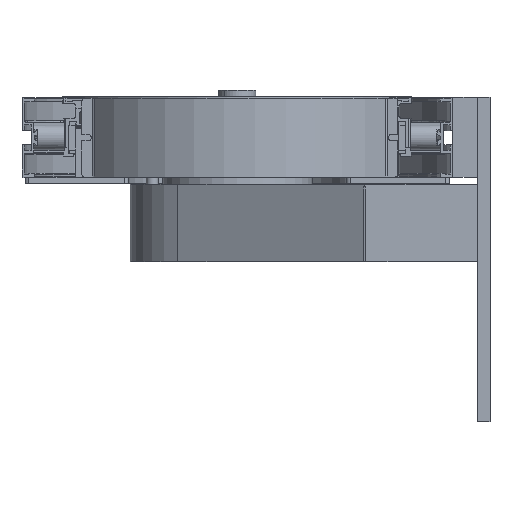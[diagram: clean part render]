
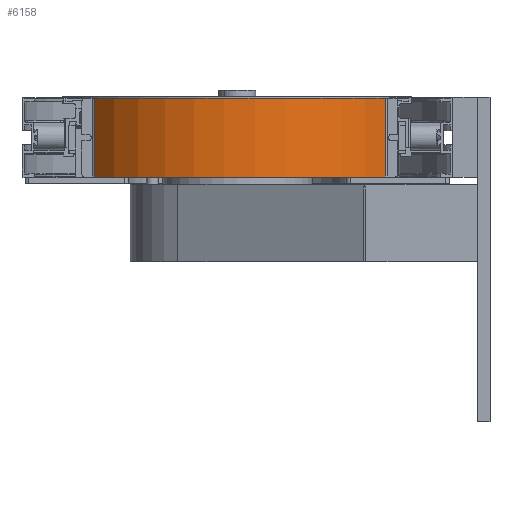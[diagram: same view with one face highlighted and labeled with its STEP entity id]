
A CAD part, front view. The second image highlights one B-rep face of the part: STEP entity #6158.
In plain terms, the highlighted cylindrical face has radius 143 mm (diameter 286 mm), a partial arc.
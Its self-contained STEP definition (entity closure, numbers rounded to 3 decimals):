
#365 = CYLINDRICAL_SURFACE ( 'NONE', #8173, 143. ) ;
#534 = CARTESIAN_POINT ( 'NONE',  ( 2164.979, 345.156, 0. ) ) ;
#3013 = AXIS2_PLACEMENT_3D ( 'NONE', #8589, #34651, #37711 ) ;
#4988 = VERTEX_POINT ( 'NONE', #19439 ) ;
#6111 = VECTOR ( 'NONE', #31952, 1000. ) ;
#6158 = ADVANCED_FACE ( 'NONE', ( #28730 ), #365, .T. ) ;
#6191 = AXIS2_PLACEMENT_3D ( 'NONE', #14053, #27260, #23944 ) ;
#7233 = CIRCLE ( 'NONE', #6191, 143. ) ;
#7305 = DIRECTION ( 'NONE',  ( 0., 0., 1. ) ) ;
#7320 = EDGE_CURVE ( 'NONE', #18570, #32621, #30999, .T. ) ;
#8173 = AXIS2_PLACEMENT_3D ( 'NONE', #13989, #7305, #20274 ) ;
#8589 = CARTESIAN_POINT ( 'NONE',  ( 2048.279, 427.8, 62.997 ) ) ;
#9126 = CARTESIAN_POINT ( 'NONE',  ( 1931.579, 345.156, 62.997 ) ) ;
#10634 = ORIENTED_EDGE ( 'NONE', *, *, #28579, .T. ) ;
#11706 = ORIENTED_EDGE ( 'NONE', *, *, #38431, .T. ) ;
#13989 = CARTESIAN_POINT ( 'NONE',  ( 2048.279, 427.8, 0. ) ) ;
#14053 = CARTESIAN_POINT ( 'NONE',  ( 2048.279, 427.8, 0. ) ) ;
#15490 = LINE ( 'NONE', #23013, #25944 ) ;
#15994 = CARTESIAN_POINT ( 'NONE',  ( 2164.979, 345.156, 62.997 ) ) ;
#16753 = ORIENTED_EDGE ( 'NONE', *, *, #37684, .T. ) ;
#18570 = VERTEX_POINT ( 'NONE', #15994 ) ;
#19439 = CARTESIAN_POINT ( 'NONE',  ( 1931.579, 345.156, 0. ) ) ;
#20274 = DIRECTION ( 'NONE',  ( 1., 0., 0. ) ) ;
#23013 = CARTESIAN_POINT ( 'NONE',  ( 1931.579, 345.156, 0. ) ) ;
#23944 = DIRECTION ( 'NONE',  ( 1., 0., 0. ) ) ;
#25944 = VECTOR ( 'NONE', #35250, 1000. ) ;
#27260 = DIRECTION ( 'NONE',  ( 0., 0., 1. ) ) ;
#28579 = EDGE_CURVE ( 'NONE', #4988, #30409, #7233, .T. ) ;
#28730 = FACE_OUTER_BOUND ( 'NONE', #32669, .T. ) ;
#30409 = VERTEX_POINT ( 'NONE', #38975 ) ;
#30999 = CIRCLE ( 'NONE', #3013, 143. ) ;
#31952 = DIRECTION ( 'NONE',  ( 0., 0., 1. ) ) ;
#32621 = VERTEX_POINT ( 'NONE', #9126 ) ;
#32669 = EDGE_LOOP ( 'NONE', ( #16753, #40479, #11706, #10634 ) ) ;
#34651 = DIRECTION ( 'NONE',  ( 0., 0., -1. ) ) ;
#35250 = DIRECTION ( 'NONE',  ( 0., 0., -1. ) ) ;
#37684 = EDGE_CURVE ( 'NONE', #30409, #18570, #37982, .T. ) ;
#37711 = DIRECTION ( 'NONE',  ( 1., 0., 0. ) ) ;
#37982 = LINE ( 'NONE', #534, #6111 ) ;
#38431 = EDGE_CURVE ( 'NONE', #32621, #4988, #15490, .T. ) ;
#38975 = CARTESIAN_POINT ( 'NONE',  ( 2164.979, 345.156, 0. ) ) ;
#40479 = ORIENTED_EDGE ( 'NONE', *, *, #7320, .T. ) ;
